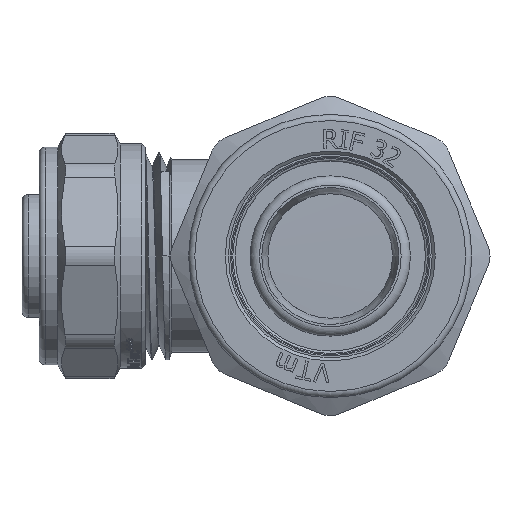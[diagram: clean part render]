
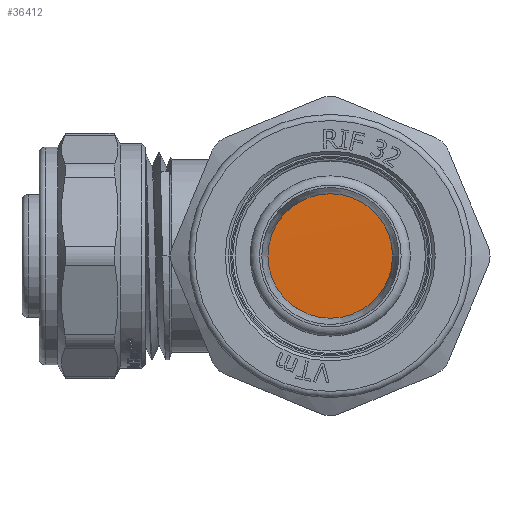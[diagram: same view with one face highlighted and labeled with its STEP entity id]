
A CAD part, left-side view. The second image highlights one B-rep face of the part: STEP entity #36412.
In plain terms, the highlighted cylindrical face has radius 21 mm (diameter 42 mm), a full revolution.
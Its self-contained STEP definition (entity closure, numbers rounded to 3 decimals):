
#2012=CYLINDRICAL_SURFACE('',#38499,21.);
#2265=FACE_OUTER_BOUND('',#4328,.T.);
#4328=EDGE_LOOP('',(#24684,#24685,#24686));
#7421=B_SPLINE_CURVE_WITH_KNOTS('',3,(#47046,#47047,#47048,#47049,#47050,
#47051,#47052,#47053,#47054,#47055,#47056,#47057,#47058,#47059,#47060,#47061,
#47062),.UNSPECIFIED.,.F.,.F.,(4,1,1,1,1,1,1,1,1,1,1,1,1,1,4),(37.699,
37.812,38.309,38.807,39.304,39.801,
40.298,40.795,41.292,41.789,42.286,
42.783,43.28,43.777,43.982),
 .UNSPECIFIED.);
#9884=LINE('',#46626,#12359);
#9897=LINE('',#47045,#12372);
#12359=VECTOR('',#40276,21.);
#12372=VECTOR('',#40315,21.);
#14836=VERTEX_POINT('',#46624);
#14837=VERTEX_POINT('',#46625);
#14865=VERTEX_POINT('',#47044);
#18786=EDGE_CURVE('',#14836,#14837,#9884,.T.);
#18821=EDGE_CURVE('',#14865,#14837,#9897,.T.);
#18822=EDGE_CURVE('',#14865,#14836,#7421,.T.);
#24684=ORIENTED_EDGE('',*,*,#18786,.T.);
#24685=ORIENTED_EDGE('',*,*,#18821,.F.);
#24686=ORIENTED_EDGE('',*,*,#18822,.T.);
#36412=ADVANCED_FACE('',(#2265),#2012,.T.);
#38499=AXIS2_PLACEMENT_3D('',#47043,#40313,#40314);
#40276=DIRECTION('',(-1.,0.,0.));
#40313=DIRECTION('center_axis',(-1.,0.,0.));
#40314=DIRECTION('ref_axis',(0.,-1.,0.));
#40315=DIRECTION('',(1.,0.,0.));
#46624=CARTESIAN_POINT('',(-25.5,21.,0.));
#46625=CARTESIAN_POINT('',(-26.9,21.,0.));
#46626=CARTESIAN_POINT('',(-29.626,21.,0.));
#47043=CARTESIAN_POINT('Origin',(-29.626,0.,
0.));
#47044=CARTESIAN_POINT('',(-27.,21.,0.));
#47045=CARTESIAN_POINT('',(-29.626,21.,0.));
#47046=CARTESIAN_POINT('Ctrl Pts',(-27.,21.,0.001));
#47047=CARTESIAN_POINT('Ctrl Pts',(-26.991,21.001,0.794));
#47048=CARTESIAN_POINT('Ctrl Pts',(-26.942,20.763,5.065));
#47049=CARTESIAN_POINT('Ctrl Pts',(-26.854,17.933,12.543));
#47050=CARTESIAN_POINT('Ctrl Pts',(-26.736,9.782,19.577));
#47051=CARTESIAN_POINT('Ctrl Pts',(-26.617,-0.737,
21.872));
#47052=CARTESIAN_POINT('Ctrl Pts',(-26.498,-11.077,
18.874));
#47053=CARTESIAN_POINT('Ctrl Pts',(-26.38,-18.737,11.308));
#47054=CARTESIAN_POINT('Ctrl Pts',(-26.261,-21.861,
1.005));
#47055=CARTESIAN_POINT('Ctrl Pts',(-26.142,-19.695,
-9.541));
#47056=CARTESIAN_POINT('Ctrl Pts',(-26.024,-12.762,-17.778));
#47057=CARTESIAN_POINT('Ctrl Pts',(-25.905,-2.74,
-21.712));
#47058=CARTESIAN_POINT('Ctrl Pts',(-25.786,7.945,-20.392));
#47059=CARTESIAN_POINT('Ctrl Pts',(-25.668,16.707,-14.136));
#47060=CARTESIAN_POINT('Ctrl Pts',(-25.572,20.502,-6.353));
#47061=CARTESIAN_POINT('Ctrl Pts',(-25.516,20.999,-1.437));
#47062=CARTESIAN_POINT('Ctrl Pts',(-25.5,20.998,0.));
